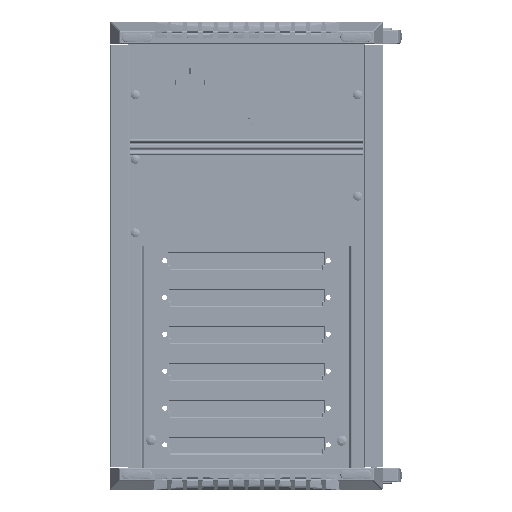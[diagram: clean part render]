
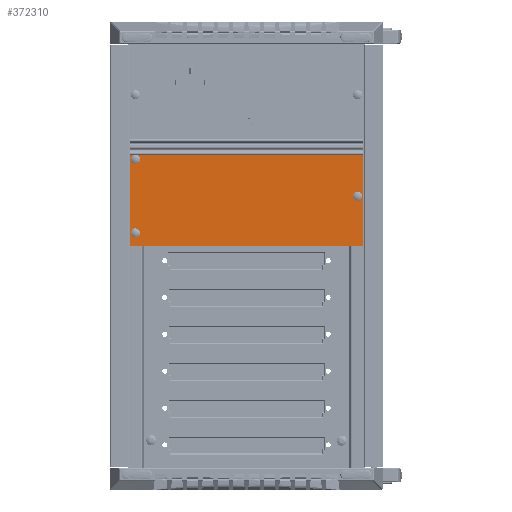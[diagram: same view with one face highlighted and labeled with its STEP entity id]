
A CAD part, left-side view. The second image highlights one B-rep face of the part: STEP entity #372310.
In plain terms, the highlighted free-form (B-spline) face has degree [1, 1] with [2, 2] control points.
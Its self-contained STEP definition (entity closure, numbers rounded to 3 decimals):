
#368288=DIRECTION('',(0.,0.,1.));
#368289=VECTOR('',#368288,53.3);
#368290=CARTESIAN_POINT('',(-298.,-8.1,5.06));
#368291=LINE('',#368290,#368289);
#368526=DIRECTION('',(0.,0.,1.));
#368527=VECTOR('',#368526,53.3);
#368528=CARTESIAN_POINT('',(-298.,120.6,5.06));
#368529=LINE('',#368528,#368527);
#369071=DIRECTION('',(0.,1.,0.));
#369072=VECTOR('',#369071,128.7);
#369073=CARTESIAN_POINT('',(-298.,-8.1,58.36));
#369074=LINE('',#369073,#369072);
#369075=DIRECTION('',(0.,1.,0.));
#369076=VECTOR('',#369075,128.7);
#369077=CARTESIAN_POINT('',(-298.,-8.1,5.06));
#369078=LINE('',#369077,#369076);
#369079=CARTESIAN_POINT('',(-298.,-5.,32.82));
#369080=DIRECTION('',(-1.,0.,0.));
#369081=DIRECTION('',(0.,0.,1.));
#369082=AXIS2_PLACEMENT_3D('',#369079,#369080,#369081);
#369084=CARTESIAN_POINT('',(-298.,-5.,32.82));
#369085=DIRECTION('',(-1.,0.,0.));
#369086=DIRECTION('',(0.,0.,-1.));
#369087=AXIS2_PLACEMENT_3D('',#369084,#369085,#369086);
#369089=CARTESIAN_POINT('',(-298.,117.5,12.5));
#369090=DIRECTION('',(-1.,0.,0.));
#369091=DIRECTION('',(0.,0.,1.));
#369092=AXIS2_PLACEMENT_3D('',#369089,#369090,#369091);
#369094=CARTESIAN_POINT('',(-298.,117.5,12.5));
#369095=DIRECTION('',(-1.,0.,0.));
#369096=DIRECTION('',(0.,0.,-1.));
#369097=AXIS2_PLACEMENT_3D('',#369094,#369095,#369096);
#369099=CARTESIAN_POINT('',(-298.,117.5,53.14));
#369100=DIRECTION('',(-1.,0.,0.));
#369101=DIRECTION('',(0.,0.,1.));
#369102=AXIS2_PLACEMENT_3D('',#369099,#369100,#369101);
#369104=CARTESIAN_POINT('',(-298.,117.5,53.14));
#369105=DIRECTION('',(-1.,0.,0.));
#369106=DIRECTION('',(0.,0.,-1.));
#369107=AXIS2_PLACEMENT_3D('',#369104,#369105,#369106);
#370395=CARTESIAN_POINT('',(-298.,-8.1,5.06));
#370396=CARTESIAN_POINT('',(-298.,120.6,5.06));
#370397=VERTEX_POINT('',#370395);
#370398=VERTEX_POINT('',#370396);
#370427=CARTESIAN_POINT('',(-298.,-8.1,58.36));
#370428=CARTESIAN_POINT('',(-298.,120.6,58.36));
#370429=VERTEX_POINT('',#370427);
#370430=VERTEX_POINT('',#370428);
#370743=CARTESIAN_POINT('',(-298.,-5.,34.17));
#370744=CARTESIAN_POINT('',(-298.,-5.,31.47));
#370745=VERTEX_POINT('',#370743);
#370746=VERTEX_POINT('',#370744);
#370747=CARTESIAN_POINT('',(-298.,117.5,13.85));
#370748=CARTESIAN_POINT('',(-298.,117.5,11.15));
#370749=VERTEX_POINT('',#370747);
#370750=VERTEX_POINT('',#370748);
#370751=CARTESIAN_POINT('',(-298.,117.5,54.49));
#370752=CARTESIAN_POINT('',(-298.,117.5,51.79));
#370753=VERTEX_POINT('',#370751);
#370754=VERTEX_POINT('',#370752);
#372280=CARTESIAN_POINT('',(-298.,-10.674,3.994));
#372281=CARTESIAN_POINT('',(-298.,123.174,3.994));
#372282=CARTESIAN_POINT('',(-298.,-10.674,59.426));
#372283=CARTESIAN_POINT('',(-298.,123.174,59.426));
#372284=B_SPLINE_SURFACE_WITH_KNOTS('',1,1,((#372280,#372281),(#372282,
#372283)),.UNSPECIFIED.,.F.,.F.,.F.,(2,2),(2,2),(-1.066,54.366),(-2.574,
131.274),.UNSPECIFIED.);
#372285=ORIENTED_EDGE('',*,*,#372265,.F.);
#372286=ORIENTED_EDGE('',*,*,#371058,.F.);
#372288=ORIENTED_EDGE('',*,*,#372287,.T.);
#372289=ORIENTED_EDGE('',*,*,#371595,.T.);
#372290=EDGE_LOOP('',(#372285,#372286,#372288,#372289));
#372291=FACE_OUTER_BOUND('',#372290,.F.);
#372293=ORIENTED_EDGE('',*,*,#372292,.T.);
#372295=ORIENTED_EDGE('',*,*,#372294,.T.);
#372296=EDGE_LOOP('',(#372293,#372295));
#372297=FACE_BOUND('',#372296,.F.);
#372299=ORIENTED_EDGE('',*,*,#372298,.T.);
#372301=ORIENTED_EDGE('',*,*,#372300,.T.);
#372302=EDGE_LOOP('',(#372299,#372301));
#372303=FACE_BOUND('',#372302,.F.);
#372305=ORIENTED_EDGE('',*,*,#372304,.T.);
#372307=ORIENTED_EDGE('',*,*,#372306,.T.);
#372308=EDGE_LOOP('',(#372305,#372307));
#372309=FACE_BOUND('',#372308,.F.);
#372310=ADVANCED_FACE('',(#372291,#372297,#372303,#372309),#372284,.T.);
#369083=CIRCLE('',#369082,1.35);
#369088=CIRCLE('',#369087,1.35);
#369093=CIRCLE('',#369092,1.35);
#369098=CIRCLE('',#369097,1.35);
#369103=CIRCLE('',#369102,1.35);
#369108=CIRCLE('',#369107,1.35);
#371058=EDGE_CURVE('',#370397,#370429,#368291,.T.);
#371595=EDGE_CURVE('',#370398,#370430,#368529,.T.);
#372265=EDGE_CURVE('',#370429,#370430,#369074,.T.);
#372287=EDGE_CURVE('',#370397,#370398,#369078,.T.);
#372292=EDGE_CURVE('',#370745,#370746,#369083,.T.);
#372294=EDGE_CURVE('',#370746,#370745,#369088,.T.);
#372298=EDGE_CURVE('',#370749,#370750,#369093,.T.);
#372300=EDGE_CURVE('',#370750,#370749,#369098,.T.);
#372304=EDGE_CURVE('',#370753,#370754,#369103,.T.);
#372306=EDGE_CURVE('',#370754,#370753,#369108,.T.);
